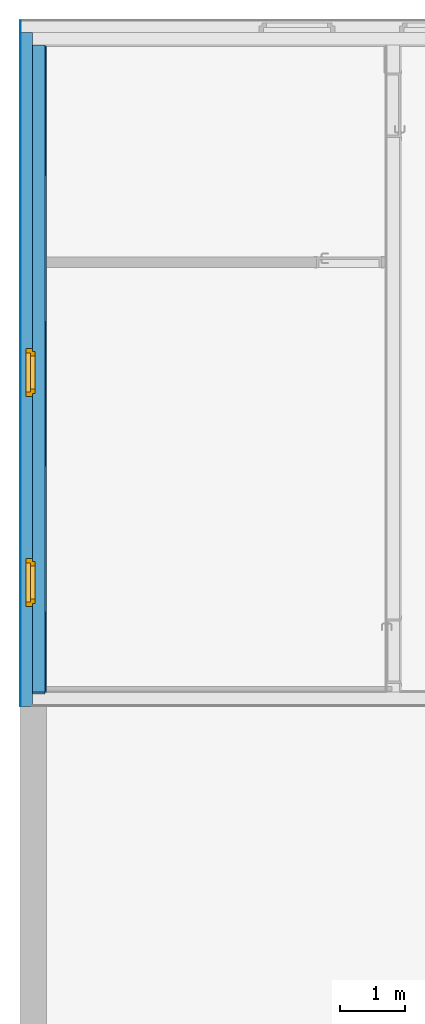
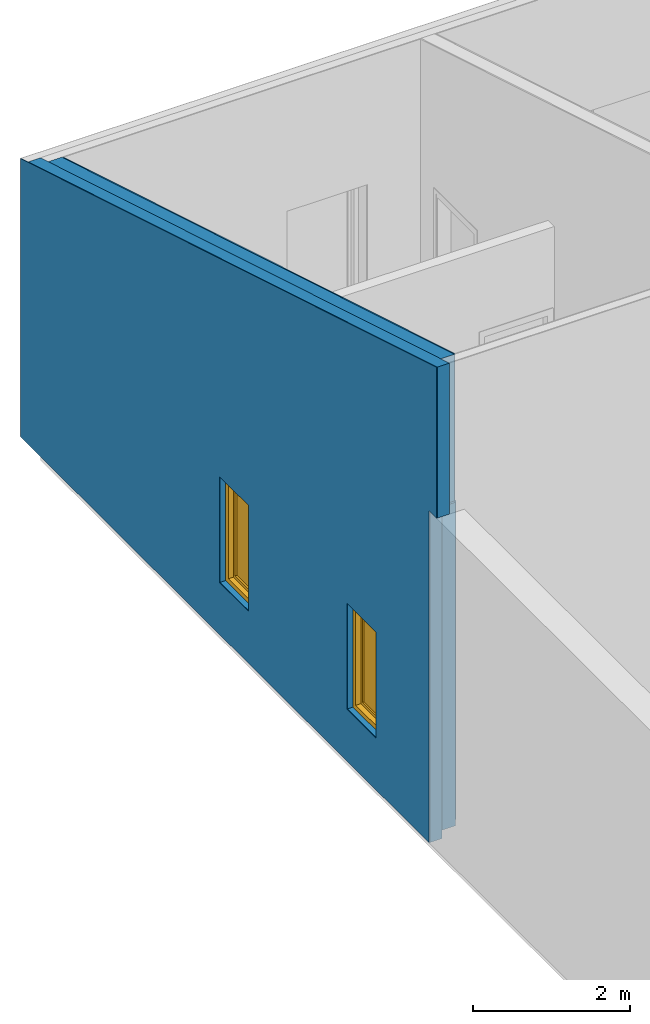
# One storey, part 16 of 34: 4 building element parts, 2 windows, 2 openings, 1 element without a shape of its own.
"""IFC2X3 building model written with IfcOpenShell, lengths in metres."""

from ifc_helpers import new_model, entity, si_unit, converted_unit, derived_unit, money_unit, direction, frame, origin_with_axes, origin_2d_with_axis, place, context, subcontext, project, spatial, polyline, rectangle, outline, extrude, boolean, open_shell, faceted_brep, surface_model, source, transform, mapped, material, type_object, element, fill, aggregate, save


model = new_model("IFC2X3")

# Units and contexts
model_context = context("Model", 3, precision=1e-05, world=origin_with_axes(), true_north=direction((0.0, 1.0)))
body_context = subcontext(model_context, "Body", "Model", "MODEL_VIEW")
ifc_project = project(units=[si_unit("LENGTHUNIT", "METRE"), si_unit("AREAUNIT", "SQUARE_METRE"), si_unit("VOLUMEUNIT", "CUBIC_METRE"), converted_unit("PLANEANGLEUNIT", "DEGREE", entity("IfcPlaneAngleMeasure", 0.0174532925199), si_unit("PLANEANGLEUNIT", "RADIAN"), dimensions=[0, 0, 0, 0, 0, 0, 0]), money_unit("CHF"), converted_unit("TIMEUNIT", "Year", entity("IfcTimeMeasure", 31556926.0), si_unit("TIMEUNIT", "SECOND"), dimensions=[0, 0, 1, 0, 0, 0, 0]), si_unit("MASSUNIT", "GRAM", prefix="KILO"), si_unit("THERMODYNAMICTEMPERATUREUNIT", "DEGREE_CELSIUS"), si_unit("LUMINOUSINTENSITYUNIT", "LUMEN"), si_unit("ENERGYUNIT", "JOULE", prefix="MEGA"), derived_unit("THERMALCONDUCTANCEUNIT", [(si_unit("POWERUNIT", "WATT"), 1), (si_unit("LENGTHUNIT", "METRE"), -1), (si_unit("THERMODYNAMICTEMPERATUREUNIT", "KELVIN"), -1)]), derived_unit("SPECIFICHEATCAPACITYUNIT", [(si_unit("ENERGYUNIT", "JOULE"), 1), (si_unit("MASSUNIT", "GRAM", prefix="KILO"), -1), (si_unit("THERMODYNAMICTEMPERATUREUNIT", "KELVIN"), -1)]), derived_unit("MASSDENSITYUNIT", [(si_unit("MASSUNIT", "GRAM", prefix="KILO"), 1), (si_unit("VOLUMEUNIT", "CUBIC_METRE"), -1)])], contexts=[model_context])

# Site, building, storey
site_placement = place(None, origin_with_axes())
site = spatial("IfcSite", under=ifc_project, at=site_placement, Name="Site", CompositionType="ELEMENT")
building_placement = place(site_placement, origin_with_axes())
building = spatial("IfcBuilding", under=site, at=building_placement, Name="Bâtiment", CompositionType="ELEMENT")
storey_placement = place(building_placement, origin_with_axes())
storey = spatial("IfcBuildingStorey", under=building, at=storey_placement, Name="Rez-de-chaussée", CompositionType="ELEMENT", Elevation=0.0)

# Window
window_style = type_object("IfcWindowStyle", Name="Fenêtre 26", ConstructionType="NOTDEFINED", OperationType="SINGLE_PANEL", ParameterTakesPrecedence=False, Sizeable=False)
shared_shape = source(origin_with_axes(), body_context, "Body", "SurfaceModel", [
    faceted_brep([(0.325, 0.0, 1.58), (0.325, -0.025, 1.58), (0.3, -0.025, 1.58), (0.3, -0.1, 1.58), (0.37, -0.1, 1.58), (0.37, 0.0, 1.58), (0.325, 0.0, 0.07), (0.325, -0.025, 0.07), (0.3, -0.025, 0.07), (0.3, -0.1, 0.07), (0.37, -0.1, 0.07), (0.37, 0.0, 0.07)], [[[0, 1, 2, 3, 4, 5]], [[1, 0, 6, 7]], [[8, 2, 1, 7]], [[2, 8, 9, 3]], [[4, 3, 9, 10]], [[5, 4, 10, 11]], [[6, 0, 5, 11]], [[7, 6, 11, 10, 9, 8]]]),
    faceted_brep([(-0.3, -0.025, 1.58), (-0.325, -0.025, 1.58), (-0.325, 0.0, 1.58), (-0.37, 0.0, 1.58), (-0.37, -0.1, 1.58), (-0.3, -0.1, 1.58), (-0.3, -0.025, 0.07), (-0.325, -0.025, 0.07), (-0.325, 0.0, 0.07), (-0.37, 0.0, 0.07), (-0.37, -0.1, 0.07), (-0.3, -0.1, 0.07)], [[[0, 1, 2, 3, 4, 5]], [[1, 0, 6, 7]], [[8, 2, 1, 7]], [[2, 8, 9, 3]], [[9, 10, 4, 3]], [[10, 11, 5, 4]], [[6, 0, 5, 11]], [[7, 6, 11, 10, 9, 8]]]),
    faceted_brep([(-0.3, -0.025, 0.07), (-0.325, -0.025, 0.07), (-0.325, 0.0, 0.07), (-0.37, 0.0, 0.07), (-0.37, -0.1, 0.07), (-0.3, -0.1, 0.07), (0.3, -0.025, 0.07), (0.325, -0.025, 0.07), (0.325, -0.025, 0.045), (-0.325, -0.025, 0.045), (-0.325, 0.0, 0.045), (0.325, 0.0, 0.045), (0.325, 0.0, 0.07), (0.37, 0.0, 0.07), (0.37, 0.0, 0.0), (-0.37, 0.0, 0.0), (-0.37, -0.1, 0.0), (0.37, -0.1, 0.07), (0.3, -0.1, 0.07), (0.37, -0.1, 0.0)], [[[0, 1, 2, 3, 4, 5]], [[1, 0, 6, 7, 8, 9]], [[10, 2, 1, 9]], [[11, 12, 13, 14, 15, 3, 2, 10]], [[15, 16, 4, 3]], [[17, 18, 5, 4, 16, 19]], [[6, 0, 5, 18]], [[7, 6, 18, 17, 13, 12]], [[7, 12, 11, 8]], [[11, 10, 9, 8]], [[13, 17, 19, 14]], [[14, 19, 16, 15]]]),
    faceted_brep([(0.325, 0.0, 1.58), (0.325, 0.0, 1.605), (-0.325, 0.0, 1.605), (-0.325, 0.0, 1.58), (-0.37, 0.0, 1.58), (-0.37, 0.0, 1.65), (0.37, 0.0, 1.65), (0.37, 0.0, 1.58), (0.325, -0.025, 1.58), (0.325, -0.025, 1.605), (-0.325, -0.025, 1.605), (-0.325, -0.025, 1.58), (-0.3, -0.025, 1.58), (-0.3, -0.1, 1.58), (-0.37, -0.1, 1.58), (-0.37, -0.1, 1.65), (0.37, -0.1, 1.65), (0.37, -0.1, 1.58), (0.3, -0.1, 1.58), (0.3, -0.025, 1.58)], [[[0, 1, 2, 3, 4, 5, 6, 7]], [[1, 0, 8, 9]], [[2, 1, 9, 10]], [[3, 2, 10, 11]], [[11, 12, 13, 14, 4, 3]], [[4, 14, 15, 5]], [[5, 15, 16, 6]], [[6, 16, 17, 7]], [[8, 0, 7, 17, 18, 19]], [[12, 11, 10, 9, 8, 19]], [[12, 19, 18, 13]], [[14, 13, 18, 17, 16, 15]]]),
    faceted_brep([(0.255, -0.025, 1.535), (0.325, -0.025, 1.535), (0.325, 0.045, 1.535), (0.255, 0.045, 1.535), (0.255, -0.025, 0.115), (0.325, -0.025, 0.115), (0.325, 0.045, 0.115), (0.255, 0.045, 0.115)], [[[0, 1, 2, 3]], [[0, 4, 5, 1]], [[1, 5, 6, 2]], [[3, 2, 6, 7]], [[4, 0, 3, 7]], [[5, 4, 7, 6]]]),
    faceted_brep([(-0.255, -0.025, 0.115), (-0.325, -0.025, 0.115), (-0.325, 0.045, 0.115), (-0.255, 0.045, 0.115), (-0.255, -0.025, 1.535), (-0.325, -0.025, 1.535), (-0.325, 0.045, 1.535), (-0.255, 0.045, 1.535)], [[[0, 1, 2, 3]], [[0, 4, 5, 1]], [[1, 5, 6, 2]], [[3, 2, 6, 7]], [[4, 0, 3, 7]], [[5, 4, 7, 6]]]),
    faceted_brep([(-0.325, -0.025, 0.045), (-0.325, -0.025, 0.115), (-0.325, 0.045, 0.115), (-0.325, 0.045, 0.045), (0.325, -0.025, 0.045), (0.325, -0.025, 0.115), (0.255, -0.025, 0.115), (-0.255, -0.025, 0.115), (-0.255, 0.045, 0.115), (0.255, 0.045, 0.115), (0.325, 0.045, 0.115), (0.325, 0.045, 0.045)], [[[0, 1, 2, 3]], [[0, 4, 5, 6, 7, 1]], [[1, 7, 8, 2]], [[3, 2, 8, 9, 10, 11]], [[4, 0, 3, 11]], [[5, 4, 11, 10]], [[6, 5, 10, 9]], [[7, 6, 9, 8]]]),
    faceted_brep([(0.325, -0.025, 1.605), (0.325, -0.025, 1.535), (0.325, 0.045, 1.535), (0.325, 0.045, 1.605), (-0.325, -0.025, 1.605), (-0.325, -0.025, 1.535), (-0.255, -0.025, 1.535), (0.255, -0.025, 1.535), (0.255, 0.045, 1.535), (-0.255, 0.045, 1.535), (-0.325, 0.045, 1.535), (-0.325, 0.045, 1.605)], [[[0, 1, 2, 3]], [[0, 4, 5, 6, 7, 1]], [[1, 7, 8, 2]], [[3, 2, 8, 9, 10, 11]], [[4, 0, 3, 11]], [[5, 4, 11, 10]], [[6, 5, 10, 9]], [[7, 6, 9, 8]]]),
    surface_model("IfcShellBasedSurfaceModel", [(0.255, 0.0, 0.115), (0.255, 0.0, 1.535), (-0.255, 0.0, 1.535), (-0.255, 0.0, 0.115)], [open_shell([[[0, 1, 2, 3]]])]),
    surface_model("IfcShellBasedSurfaceModel", [(0.255, 0.02, 0.115), (-0.255, 0.02, 0.115), (-0.255, 0.02, 1.535), (0.255, 0.02, 1.535)], [open_shell([[[0, 1, 2, 3]]])]),
])
wall_placement = place(storey_placement, frame((11.1494697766, 15.07, -0.21), z_axis=(0.0, 0.0, 1.0), x_axis=(0.0, 1.0, 0.0)))
opening_1_placement = place(wall_placement, frame((1.73016550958, 0.0, 0.81), z_axis=(0.0, 0.0, 1.0), x_axis=(1.0, 0.0, 0.0)))
window_1_placement = place(opening_1_placement, frame((0.37, 0.0, 0.0), z_axis=(0.0, 0.0, 1.0), x_axis=(-1.0, 0.0, 0.0)))
window_1 = element("IfcWindow", 1, at=window_1_placement, inside=storey, type_object=window_style, Name="FENETRE-005", ObjectType="WINDOW", OverallHeight=1.65, OverallWidth=0.74, context=body_context, shape_type="MappedRepresentation", body=[
    mapped(shared_shape, transform((0.37, -0.1, 0.0))),
])

opening_2_placement = place(wall_placement, frame((4.98016550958, 0.0, 0.81), z_axis=(0.0, 0.0, 1.0), x_axis=(1.0, 0.0, 0.0)))
window_2_placement = place(opening_2_placement, frame((0.37, 0.0, 0.0), z_axis=(0.0, 0.0, 1.0), x_axis=(-1.0, 0.0, 0.0)))
window_2 = element("IfcWindow", 2, at=window_2_placement, inside=storey, type_object=window_style, Name="FENETRE-005", ObjectType="WINDOW", OverallHeight=1.65, OverallWidth=0.74, context=body_context, shape_type="MappedRepresentation", body=[
    mapped(shared_shape, transform((0.37, -0.1, 0.0))),
])

# Wall, opening
wall_type = type_object("IfcWallType", Name="Mur 20cm + iso 18 + enduit  410", PredefinedType="NOTDEFINED")
wall = element("IfcWall", 3, at=wall_placement, inside=storey, type_object=wall_type, Name="Mur ext 20+18isolant")
opening_1 = element("IfcOpeningElement", 4, at=opening_1_placement, cuts=wall, Name="FENETRE-005", context=body_context, shape_type="SweptSolid", body=[
    extrude(rectangle(XDim=0.74, YDim=1.65, at=origin_2d_with_axis()), frame((0.0, 0.2, 0.825), z_axis=(0.0, -1.0, 0.0), x_axis=(1.0, 0.0, 0.0)), (0.0, 0.0, 1.0), 0.73),
    extrude(rectangle(XDim=0.74, YDim=1.65, at=origin_2d_with_axis()), frame((0.0, 0.2, 0.825), z_axis=(0.0, 1.0, 0.0), x_axis=(1.0, 0.0, 0.0)), (0.0, 0.0, 1.0), 0.5),
])

fill(opening_1, window_1)

# Opening
opening_2 = element("IfcOpeningElement", 5, at=opening_2_placement, cuts=wall, Name="FENETRE-005", context=body_context, shape_type="SweptSolid", body=[
    extrude(rectangle(XDim=0.74, YDim=1.65, at=origin_2d_with_axis()), frame((0.0, 0.2, 0.825), z_axis=(0.0, -1.0, 0.0), x_axis=(1.0, 0.0, 0.0)), (0.0, 0.0, 1.0), 0.73),
    extrude(rectangle(XDim=0.74, YDim=1.65, at=origin_2d_with_axis()), frame((0.0, 0.2, 0.825), z_axis=(0.0, 1.0, 0.0), x_axis=(1.0, 0.0, 0.0)), (0.0, 0.0, 1.0), 0.5),
])

fill(opening_2, window_2)

# Building element part
ifc_material_1 = material(Name="Finition int - Enduit plâtre")
building_element_part_1_placement = place(wall_placement, origin_with_axes())
building_element_part_1 = element("IfcBuildingElementPart", 6, at=building_element_part_1_placement, material=ifc_material_1, Name="Finition int - Enduit plâtre", context=body_context, shape_type="CSG", body=[
    boolean("DIFFERENCE", boolean("DIFFERENCE", boolean("DIFFERENCE", boolean("DIFFERENCE", boolean("DIFFERENCE", boolean("DIFFERENCE", boolean("DIFFERENCE", extrude(outline(polyline([(-0.19, -0.12), (10.4401256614, -0.12), (10.4401256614, -0.1), (-0.19, -0.1), (-0.19, -0.12)])), origin_with_axes(), (0.0, 0.0, 1.0), 7.64), faceted_brep([(0.05, -0.1, 0.21), (0.05, -0.1, 2.81), (0.12, -0.1, 2.81), (0.12, -0.1, 0.21), (0.05, -0.12, 0.21), (0.05, -0.12, 2.81), (0.12, -0.12, 2.81), (0.12, -0.12, 0.21)], [[[0, 1, 2, 3]], [[4, 5, 1, 0]], [[5, 6, 2, 1]], [[6, 7, 3, 2]], [[7, 4, 0, 3]], [[4, 7, 6, 5]]])), faceted_brep([(10.4401256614, -0.1, 7.64), (10.4401256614, -0.1, 0.0), (-0.19, -0.1, 0.0), (-0.19, -0.1, 7.64), (6.7685, -0.1, 0.2), (10.0301256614, -0.1, 0.2), (10.0301256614, -0.1, 4.45417566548), (0.05, -0.1, 7.44821336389), (0.05, -0.1, 5.17), (0.03, -0.1, 5.17), (0.03, -0.1, 0.2), (6.61, -0.1, 0.2), (6.61, -0.1, 3.61), (6.7685, -0.1, 3.61), (10.4401256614, -0.12, 7.64), (10.4401256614, -0.12, 0.0), (-0.19, -0.12, 0.0), (-0.19, -0.12, 7.64), (6.7685, -0.12, 0.2), (10.0301256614, -0.12, 0.2), (10.0301256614, -0.12, 4.45417566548), (0.05, -0.12, 7.44821336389), (0.05, -0.12, 5.17), (0.03, -0.12, 5.17), (0.03, -0.12, 0.2), (6.61, -0.12, 0.2), (6.61, -0.12, 3.61), (6.7685, -0.12, 3.61)], [[[0, 1, 2, 3], [4, 5, 6, 7, 8, 9, 10, 11, 12, 13]], [[14, 15, 1, 0]], [[15, 16, 2, 1]], [[3, 2, 16, 17]], [[3, 17, 14, 0]], [[18, 19, 5, 4]], [[19, 20, 6, 5]], [[20, 21, 7, 6]], [[21, 22, 8, 7]], [[22, 23, 9, 8]], [[23, 24, 10, 9]], [[24, 25, 11, 10]], [[25, 26, 12, 11]], [[26, 27, 13, 12]], [[27, 18, 4, 13]], [[17, 16, 15, 14], [22, 21, 20, 19, 18, 27, 26, 25, 24, 23]]])), faceted_brep([(10.4401256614, 0.1, 7.64), (10.4401256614, 0.1, 0.0), (-0.19, 0.1, 0.0), (-0.19, 0.1, 7.64), (0.0, 0.1, 0.13), (10.0501256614, 0.1, 0.13), (10.0501256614, 0.1, 4.44817566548), (0.03, 0.1, 7.45421336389), (0.03, 0.1, 5.17), (0.0, 0.1, 5.17), (10.4401256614, -0.1, 7.64), (10.4401256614, -0.1, 0.0), (-0.19, -0.1, 0.0), (-0.19, -0.1, 7.64), (0.0, -0.1, 0.13), (10.0501256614, -0.1, 0.13), (10.0501256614, -0.1, 4.44817566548), (10.0301256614, -0.1, 4.45417566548), (0.05, -0.1, 7.44821336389), (0.03, -0.1, 7.45421336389), (0.03, -0.1, 5.17), (0.0, -0.1, 5.17)], [[[0, 1, 2, 3], [4, 5, 6, 7, 8, 9]], [[10, 11, 1, 0]], [[11, 12, 2, 1]], [[3, 2, 12, 13]], [[3, 13, 10, 0]], [[14, 15, 5, 4]], [[15, 16, 6, 5]], [[16, 17, 18, 19, 7, 6]], [[19, 20, 8, 7]], [[20, 21, 9, 8]], [[21, 14, 4, 9]], [[13, 12, 11, 10], [18, 17, 16, 15, 14, 21, 20, 19]]])), faceted_brep([(0.0, 0.1, 0.0), (0.0, 0.1, 0.13), (0.0, 0.1, 5.17), (-0.189999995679, 0.1, 5.17), (-0.19, 0.1, 0.0), (0.0, 0.28, 0.0), (0.0, 0.28, 5.17), (-0.189999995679, 0.28, 5.17), (-0.19, 0.28, 0.0)], [[[0, 1, 2, 3, 4]], [[2, 1, 0, 5, 6]], [[3, 2, 6, 7]], [[3, 7, 8, 4]], [[5, 0, 4, 8]], [[6, 5, 8, 7]]])), faceted_brep([(0.03, 0.1, 7.45421336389), (10.0501256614, 0.1, 4.44817566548), (10.2501256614, 0.1, 4.38817566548), (10.2501256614, 0.1, 0.0), (10.4401256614, 0.1, 0.0), (10.4401256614, 0.1, 7.64), (-0.19, 0.1, 7.64), (-0.189999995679, 0.1, 7.52021336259), (-0.189999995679, 0.28, 7.52021336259), (10.2501256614, 0.28, 4.38817566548), (10.2501256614, 0.28, 0.0), (10.4401256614, 0.28, 0.0), (10.4401256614, 0.28, 7.64), (-0.19, 0.28, 7.64)], [[[0, 1, 2, 3, 4, 5, 6, 7]], [[2, 1, 0, 7, 8, 9]], [[3, 2, 9, 10]], [[3, 10, 11, 4]], [[5, 4, 11, 12]], [[13, 6, 5, 12]], [[8, 7, 6, 13]], [[9, 8, 13, 12, 11, 10]]])), faceted_brep([(0.0, 0.28, 5.17), (-0.189999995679, 0.28, 5.17), (-0.19, 0.28, 0.0), (0.0, 0.28, 0.0), (0.0, 0.29000002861, 5.17), (-0.189999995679, 0.29000002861, 5.17), (-0.19, 0.29, 0.0), (0.0, 0.29, 0.0)], [[[0, 1, 2, 3]], [[1, 0, 4, 5]], [[1, 5, 6, 2]], [[7, 3, 2, 6]], [[0, 3, 7, 4]], [[4, 7, 6, 5]]])), faceted_brep([(-0.189999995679, 0.28, 7.52021336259), (10.2501256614, 0.28, 4.38817566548), (10.4301256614, 0.28, 4.33417566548), (10.4301256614, 0.28, 0.0), (10.4401256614, 0.28, 0.0), (10.4401256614, 0.28, 7.64), (-0.19, 0.28, 7.64), (-0.189999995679, 0.29000000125, 7.52021336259), (10.4301256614, 0.290000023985, 4.33417566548), (10.4301256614, 0.29, 0.0), (10.4401256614, 0.29, 0.0), (10.4401256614, 0.29, 7.64), (-0.19, 0.29, 7.64)], [[[0, 1, 2, 3, 4, 5, 6]], [[2, 1, 0, 7, 8]], [[3, 2, 8, 9]], [[3, 9, 10, 4]], [[5, 4, 10, 11]], [[12, 6, 5, 11]], [[7, 0, 6, 12]], [[8, 7, 12, 11, 10, 9]]])),
])

ifc_material_2 = material(Name="Béton armé (Coulé)")
building_element_part_2_placement = place(wall_placement, origin_with_axes())
building_element_part_2 = element("IfcBuildingElementPart", 7, at=building_element_part_2_placement, material=ifc_material_2, Name="Béton armé (Coulé)", context=body_context, shape_type="CSG", body=[
    boolean("DIFFERENCE", boolean("DIFFERENCE", boolean("DIFFERENCE", boolean("DIFFERENCE", boolean("DIFFERENCE", boolean("DIFFERENCE", boolean("DIFFERENCE", extrude(outline(polyline([(-0.19, -0.1), (10.4401256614, -0.1), (10.4401256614, 0.1), (-0.19, 0.1), (-0.19, -0.1)])), origin_with_axes(), (0.0, 0.0, 1.0), 7.64), faceted_brep([(0.05, -0.1, 0.21), (0.05, -0.1, 2.81), (0.12, -0.1, 2.81), (0.12, -0.1, 0.21), (0.05, -0.12, 0.21), (0.05, -0.12, 2.81), (0.12, -0.12, 2.81), (0.12, -0.12, 0.21)], [[[0, 1, 2, 3]], [[4, 5, 1, 0]], [[5, 6, 2, 1]], [[6, 7, 3, 2]], [[7, 4, 0, 3]], [[4, 7, 6, 5]]])), faceted_brep([(10.4401256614, -0.1, 7.64), (10.4401256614, -0.1, 0.0), (-0.19, -0.1, 0.0), (-0.19, -0.1, 7.64), (6.7685, -0.1, 0.2), (10.0301256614, -0.1, 0.2), (10.0301256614, -0.1, 4.45417566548), (0.05, -0.1, 7.44821336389), (0.05, -0.1, 5.17), (0.03, -0.1, 5.17), (0.03, -0.1, 0.2), (6.61, -0.1, 0.2), (6.61, -0.1, 3.61), (6.7685, -0.1, 3.61), (10.4401256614, -0.12, 7.64), (10.4401256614, -0.12, 0.0), (-0.19, -0.12, 0.0), (-0.19, -0.12, 7.64), (6.7685, -0.12, 0.2), (10.0301256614, -0.12, 0.2), (10.0301256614, -0.12, 4.45417566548), (0.05, -0.12, 7.44821336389), (0.05, -0.12, 5.17), (0.03, -0.12, 5.17), (0.03, -0.12, 0.2), (6.61, -0.12, 0.2), (6.61, -0.12, 3.61), (6.7685, -0.12, 3.61)], [[[0, 1, 2, 3], [4, 5, 6, 7, 8, 9, 10, 11, 12, 13]], [[14, 15, 1, 0]], [[15, 16, 2, 1]], [[3, 2, 16, 17]], [[3, 17, 14, 0]], [[18, 19, 5, 4]], [[19, 20, 6, 5]], [[20, 21, 7, 6]], [[21, 22, 8, 7]], [[22, 23, 9, 8]], [[23, 24, 10, 9]], [[24, 25, 11, 10]], [[25, 26, 12, 11]], [[26, 27, 13, 12]], [[27, 18, 4, 13]], [[17, 16, 15, 14], [22, 21, 20, 19, 18, 27, 26, 25, 24, 23]]])), faceted_brep([(10.4401256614, 0.1, 7.64), (10.4401256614, 0.1, 0.0), (-0.19, 0.1, 0.0), (-0.19, 0.1, 7.64), (0.0, 0.1, 0.13), (10.0501256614, 0.1, 0.13), (10.0501256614, 0.1, 4.44817566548), (0.03, 0.1, 7.45421336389), (0.03, 0.1, 5.17), (0.0, 0.1, 5.17), (10.4401256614, -0.1, 7.64), (10.4401256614, -0.1, 0.0), (-0.19, -0.1, 0.0), (-0.19, -0.1, 7.64), (0.0, -0.1, 0.13), (10.0501256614, -0.1, 0.13), (10.0501256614, -0.1, 4.44817566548), (10.0301256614, -0.1, 4.45417566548), (0.05, -0.1, 7.44821336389), (0.03, -0.1, 7.45421336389), (0.03, -0.1, 5.17), (0.0, -0.1, 5.17)], [[[0, 1, 2, 3], [4, 5, 6, 7, 8, 9]], [[10, 11, 1, 0]], [[11, 12, 2, 1]], [[3, 2, 12, 13]], [[3, 13, 10, 0]], [[14, 15, 5, 4]], [[15, 16, 6, 5]], [[16, 17, 18, 19, 7, 6]], [[19, 20, 8, 7]], [[20, 21, 9, 8]], [[21, 14, 4, 9]], [[13, 12, 11, 10], [18, 17, 16, 15, 14, 21, 20, 19]]])), faceted_brep([(0.0, 0.1, 0.0), (0.0, 0.1, 0.13), (0.0, 0.1, 5.17), (-0.189999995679, 0.1, 5.17), (-0.19, 0.1, 0.0), (0.0, 0.28, 0.0), (0.0, 0.28, 5.17), (-0.189999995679, 0.28, 5.17), (-0.19, 0.28, 0.0)], [[[0, 1, 2, 3, 4]], [[2, 1, 0, 5, 6]], [[3, 2, 6, 7]], [[3, 7, 8, 4]], [[5, 0, 4, 8]], [[6, 5, 8, 7]]])), faceted_brep([(0.03, 0.1, 7.45421336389), (10.0501256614, 0.1, 4.44817566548), (10.2501256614, 0.1, 4.38817566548), (10.2501256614, 0.1, 0.0), (10.4401256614, 0.1, 0.0), (10.4401256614, 0.1, 7.64), (-0.19, 0.1, 7.64), (-0.189999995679, 0.1, 7.52021336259), (-0.189999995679, 0.28, 7.52021336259), (10.2501256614, 0.28, 4.38817566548), (10.2501256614, 0.28, 0.0), (10.4401256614, 0.28, 0.0), (10.4401256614, 0.28, 7.64), (-0.19, 0.28, 7.64)], [[[0, 1, 2, 3, 4, 5, 6, 7]], [[2, 1, 0, 7, 8, 9]], [[3, 2, 9, 10]], [[3, 10, 11, 4]], [[5, 4, 11, 12]], [[13, 6, 5, 12]], [[8, 7, 6, 13]], [[9, 8, 13, 12, 11, 10]]])), faceted_brep([(0.0, 0.28, 5.17), (-0.189999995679, 0.28, 5.17), (-0.19, 0.28, 0.0), (0.0, 0.28, 0.0), (0.0, 0.29000002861, 5.17), (-0.189999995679, 0.29000002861, 5.17), (-0.19, 0.29, 0.0), (0.0, 0.29, 0.0)], [[[0, 1, 2, 3]], [[1, 0, 4, 5]], [[1, 5, 6, 2]], [[7, 3, 2, 6]], [[0, 3, 7, 4]], [[4, 7, 6, 5]]])), faceted_brep([(-0.189999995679, 0.28, 7.52021336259), (10.2501256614, 0.28, 4.38817566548), (10.4301256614, 0.28, 4.33417566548), (10.4301256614, 0.28, 0.0), (10.4401256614, 0.28, 0.0), (10.4401256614, 0.28, 7.64), (-0.19, 0.28, 7.64), (-0.189999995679, 0.29000000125, 7.52021336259), (10.4301256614, 0.290000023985, 4.33417566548), (10.4301256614, 0.29, 0.0), (10.4401256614, 0.29, 0.0), (10.4401256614, 0.29, 7.64), (-0.19, 0.29, 7.64)], [[[0, 1, 2, 3, 4, 5, 6]], [[2, 1, 0, 7, 8]], [[3, 2, 8, 9]], [[3, 9, 10, 4]], [[5, 4, 10, 11]], [[12, 6, 5, 11]], [[7, 0, 6, 12]], [[8, 7, 12, 11, 10, 9]]])),
])

ifc_material_3 = material(Name="Isolation - Fibres de bois")
building_element_part_3_placement = place(wall_placement, origin_with_axes())
building_element_part_3 = element("IfcBuildingElementPart", 8, at=building_element_part_3_placement, material=ifc_material_3, Name="Isolation - Fibres de bois", context=body_context, shape_type="CSG", body=[
    boolean("DIFFERENCE", boolean("DIFFERENCE", boolean("DIFFERENCE", boolean("DIFFERENCE", boolean("DIFFERENCE", boolean("DIFFERENCE", boolean("DIFFERENCE", extrude(outline(polyline([(-0.19, 0.1), (10.4401256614, 0.1), (10.4401256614, 0.28), (-0.19, 0.28), (-0.19, 0.1)])), origin_with_axes(), (0.0, 0.0, 1.0), 7.64), faceted_brep([(0.05, -0.1, 0.21), (0.05, -0.1, 2.81), (0.12, -0.1, 2.81), (0.12, -0.1, 0.21), (0.05, -0.12, 0.21), (0.05, -0.12, 2.81), (0.12, -0.12, 2.81), (0.12, -0.12, 0.21)], [[[0, 1, 2, 3]], [[4, 5, 1, 0]], [[5, 6, 2, 1]], [[6, 7, 3, 2]], [[7, 4, 0, 3]], [[4, 7, 6, 5]]])), faceted_brep([(10.4401256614, -0.1, 7.64), (10.4401256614, -0.1, 0.0), (-0.19, -0.1, 0.0), (-0.19, -0.1, 7.64), (6.7685, -0.1, 0.2), (10.0301256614, -0.1, 0.2), (10.0301256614, -0.1, 4.45417566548), (0.05, -0.1, 7.44821336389), (0.05, -0.1, 5.17), (0.03, -0.1, 5.17), (0.03, -0.1, 0.2), (6.61, -0.1, 0.2), (6.61, -0.1, 3.61), (6.7685, -0.1, 3.61), (10.4401256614, -0.12, 7.64), (10.4401256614, -0.12, 0.0), (-0.19, -0.12, 0.0), (-0.19, -0.12, 7.64), (6.7685, -0.12, 0.2), (10.0301256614, -0.12, 0.2), (10.0301256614, -0.12, 4.45417566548), (0.05, -0.12, 7.44821336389), (0.05, -0.12, 5.17), (0.03, -0.12, 5.17), (0.03, -0.12, 0.2), (6.61, -0.12, 0.2), (6.61, -0.12, 3.61), (6.7685, -0.12, 3.61)], [[[0, 1, 2, 3], [4, 5, 6, 7, 8, 9, 10, 11, 12, 13]], [[14, 15, 1, 0]], [[15, 16, 2, 1]], [[3, 2, 16, 17]], [[3, 17, 14, 0]], [[18, 19, 5, 4]], [[19, 20, 6, 5]], [[20, 21, 7, 6]], [[21, 22, 8, 7]], [[22, 23, 9, 8]], [[23, 24, 10, 9]], [[24, 25, 11, 10]], [[25, 26, 12, 11]], [[26, 27, 13, 12]], [[27, 18, 4, 13]], [[17, 16, 15, 14], [22, 21, 20, 19, 18, 27, 26, 25, 24, 23]]])), faceted_brep([(10.4401256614, 0.1, 7.64), (10.4401256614, 0.1, 0.0), (-0.19, 0.1, 0.0), (-0.19, 0.1, 7.64), (0.0, 0.1, 0.13), (10.0501256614, 0.1, 0.13), (10.0501256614, 0.1, 4.44817566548), (0.03, 0.1, 7.45421336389), (0.03, 0.1, 5.17), (0.0, 0.1, 5.17), (10.4401256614, -0.1, 7.64), (10.4401256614, -0.1, 0.0), (-0.19, -0.1, 0.0), (-0.19, -0.1, 7.64), (0.0, -0.1, 0.13), (10.0501256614, -0.1, 0.13), (10.0501256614, -0.1, 4.44817566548), (10.0301256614, -0.1, 4.45417566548), (0.05, -0.1, 7.44821336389), (0.03, -0.1, 7.45421336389), (0.03, -0.1, 5.17), (0.0, -0.1, 5.17)], [[[0, 1, 2, 3], [4, 5, 6, 7, 8, 9]], [[10, 11, 1, 0]], [[11, 12, 2, 1]], [[3, 2, 12, 13]], [[3, 13, 10, 0]], [[14, 15, 5, 4]], [[15, 16, 6, 5]], [[16, 17, 18, 19, 7, 6]], [[19, 20, 8, 7]], [[20, 21, 9, 8]], [[21, 14, 4, 9]], [[13, 12, 11, 10], [18, 17, 16, 15, 14, 21, 20, 19]]])), faceted_brep([(0.0, 0.1, 0.0), (0.0, 0.1, 0.13), (0.0, 0.1, 5.17), (-0.189999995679, 0.1, 5.17), (-0.19, 0.1, 0.0), (0.0, 0.28, 0.0), (0.0, 0.28, 5.17), (-0.189999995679, 0.28, 5.17), (-0.19, 0.28, 0.0)], [[[0, 1, 2, 3, 4]], [[2, 1, 0, 5, 6]], [[3, 2, 6, 7]], [[3, 7, 8, 4]], [[5, 0, 4, 8]], [[6, 5, 8, 7]]])), faceted_brep([(0.03, 0.1, 7.45421336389), (10.0501256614, 0.1, 4.44817566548), (10.2501256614, 0.1, 4.38817566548), (10.2501256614, 0.1, 0.0), (10.4401256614, 0.1, 0.0), (10.4401256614, 0.1, 7.64), (-0.19, 0.1, 7.64), (-0.189999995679, 0.1, 7.52021336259), (-0.189999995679, 0.28, 7.52021336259), (10.2501256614, 0.28, 4.38817566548), (10.2501256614, 0.28, 0.0), (10.4401256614, 0.28, 0.0), (10.4401256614, 0.28, 7.64), (-0.19, 0.28, 7.64)], [[[0, 1, 2, 3, 4, 5, 6, 7]], [[2, 1, 0, 7, 8, 9]], [[3, 2, 9, 10]], [[3, 10, 11, 4]], [[5, 4, 11, 12]], [[13, 6, 5, 12]], [[8, 7, 6, 13]], [[9, 8, 13, 12, 11, 10]]])), faceted_brep([(0.0, 0.28, 5.17), (-0.189999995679, 0.28, 5.17), (-0.19, 0.28, 0.0), (0.0, 0.28, 0.0), (0.0, 0.29000002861, 5.17), (-0.189999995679, 0.29000002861, 5.17), (-0.19, 0.29, 0.0), (0.0, 0.29, 0.0)], [[[0, 1, 2, 3]], [[1, 0, 4, 5]], [[1, 5, 6, 2]], [[7, 3, 2, 6]], [[0, 3, 7, 4]], [[4, 7, 6, 5]]])), faceted_brep([(-0.189999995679, 0.28, 7.52021336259), (10.2501256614, 0.28, 4.38817566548), (10.4301256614, 0.28, 4.33417566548), (10.4301256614, 0.28, 0.0), (10.4401256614, 0.28, 0.0), (10.4401256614, 0.28, 7.64), (-0.19, 0.28, 7.64), (-0.189999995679, 0.29000000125, 7.52021336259), (10.4301256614, 0.290000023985, 4.33417566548), (10.4301256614, 0.29, 0.0), (10.4401256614, 0.29, 0.0), (10.4401256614, 0.29, 7.64), (-0.19, 0.29, 7.64)], [[[0, 1, 2, 3, 4, 5, 6]], [[2, 1, 0, 7, 8]], [[3, 2, 8, 9]], [[3, 9, 10, 4]], [[5, 4, 10, 11]], [[12, 6, 5, 11]], [[7, 0, 6, 12]], [[8, 7, 12, 11, 10, 9]]])),
])

ifc_material_4 = material(Name="Finition int - Enduit minéral")
building_element_part_4_placement = place(wall_placement, origin_with_axes())
building_element_part_4 = element("IfcBuildingElementPart", 9, at=building_element_part_4_placement, material=ifc_material_4, Name="Finition int - Enduit minéral", context=body_context, shape_type="CSG", body=[
    boolean("DIFFERENCE", boolean("DIFFERENCE", boolean("DIFFERENCE", boolean("DIFFERENCE", boolean("DIFFERENCE", boolean("DIFFERENCE", boolean("DIFFERENCE", extrude(outline(polyline([(-0.19, 0.28), (10.4401256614, 0.28), (10.4401256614, 0.29), (-0.19, 0.29), (-0.19, 0.28)])), origin_with_axes(), (0.0, 0.0, 1.0), 7.64), faceted_brep([(0.05, -0.1, 0.21), (0.05, -0.1, 2.81), (0.12, -0.1, 2.81), (0.12, -0.1, 0.21), (0.05, -0.12, 0.21), (0.05, -0.12, 2.81), (0.12, -0.12, 2.81), (0.12, -0.12, 0.21)], [[[0, 1, 2, 3]], [[4, 5, 1, 0]], [[5, 6, 2, 1]], [[6, 7, 3, 2]], [[7, 4, 0, 3]], [[4, 7, 6, 5]]])), faceted_brep([(10.4401256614, -0.1, 7.64), (10.4401256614, -0.1, 0.0), (-0.19, -0.1, 0.0), (-0.19, -0.1, 7.64), (6.7685, -0.1, 0.2), (10.0301256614, -0.1, 0.2), (10.0301256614, -0.1, 4.45417566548), (0.05, -0.1, 7.44821336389), (0.05, -0.1, 5.17), (0.03, -0.1, 5.17), (0.03, -0.1, 0.2), (6.61, -0.1, 0.2), (6.61, -0.1, 3.61), (6.7685, -0.1, 3.61), (10.4401256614, -0.12, 7.64), (10.4401256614, -0.12, 0.0), (-0.19, -0.12, 0.0), (-0.19, -0.12, 7.64), (6.7685, -0.12, 0.2), (10.0301256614, -0.12, 0.2), (10.0301256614, -0.12, 4.45417566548), (0.05, -0.12, 7.44821336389), (0.05, -0.12, 5.17), (0.03, -0.12, 5.17), (0.03, -0.12, 0.2), (6.61, -0.12, 0.2), (6.61, -0.12, 3.61), (6.7685, -0.12, 3.61)], [[[0, 1, 2, 3], [4, 5, 6, 7, 8, 9, 10, 11, 12, 13]], [[14, 15, 1, 0]], [[15, 16, 2, 1]], [[3, 2, 16, 17]], [[3, 17, 14, 0]], [[18, 19, 5, 4]], [[19, 20, 6, 5]], [[20, 21, 7, 6]], [[21, 22, 8, 7]], [[22, 23, 9, 8]], [[23, 24, 10, 9]], [[24, 25, 11, 10]], [[25, 26, 12, 11]], [[26, 27, 13, 12]], [[27, 18, 4, 13]], [[17, 16, 15, 14], [22, 21, 20, 19, 18, 27, 26, 25, 24, 23]]])), faceted_brep([(10.4401256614, 0.1, 7.64), (10.4401256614, 0.1, 0.0), (-0.19, 0.1, 0.0), (-0.19, 0.1, 7.64), (0.0, 0.1, 0.13), (10.0501256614, 0.1, 0.13), (10.0501256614, 0.1, 4.44817566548), (0.03, 0.1, 7.45421336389), (0.03, 0.1, 5.17), (0.0, 0.1, 5.17), (10.4401256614, -0.1, 7.64), (10.4401256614, -0.1, 0.0), (-0.19, -0.1, 0.0), (-0.19, -0.1, 7.64), (0.0, -0.1, 0.13), (10.0501256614, -0.1, 0.13), (10.0501256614, -0.1, 4.44817566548), (10.0301256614, -0.1, 4.45417566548), (0.05, -0.1, 7.44821336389), (0.03, -0.1, 7.45421336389), (0.03, -0.1, 5.17), (0.0, -0.1, 5.17)], [[[0, 1, 2, 3], [4, 5, 6, 7, 8, 9]], [[10, 11, 1, 0]], [[11, 12, 2, 1]], [[3, 2, 12, 13]], [[3, 13, 10, 0]], [[14, 15, 5, 4]], [[15, 16, 6, 5]], [[16, 17, 18, 19, 7, 6]], [[19, 20, 8, 7]], [[20, 21, 9, 8]], [[21, 14, 4, 9]], [[13, 12, 11, 10], [18, 17, 16, 15, 14, 21, 20, 19]]])), faceted_brep([(0.0, 0.1, 0.0), (0.0, 0.1, 0.13), (0.0, 0.1, 5.17), (-0.189999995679, 0.1, 5.17), (-0.19, 0.1, 0.0), (0.0, 0.28, 0.0), (0.0, 0.28, 5.17), (-0.189999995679, 0.28, 5.17), (-0.19, 0.28, 0.0)], [[[0, 1, 2, 3, 4]], [[2, 1, 0, 5, 6]], [[3, 2, 6, 7]], [[3, 7, 8, 4]], [[5, 0, 4, 8]], [[6, 5, 8, 7]]])), faceted_brep([(0.03, 0.1, 7.45421336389), (10.0501256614, 0.1, 4.44817566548), (10.2501256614, 0.1, 4.38817566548), (10.2501256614, 0.1, 0.0), (10.4401256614, 0.1, 0.0), (10.4401256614, 0.1, 7.64), (-0.19, 0.1, 7.64), (-0.189999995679, 0.1, 7.52021336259), (-0.189999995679, 0.28, 7.52021336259), (10.2501256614, 0.28, 4.38817566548), (10.2501256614, 0.28, 0.0), (10.4401256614, 0.28, 0.0), (10.4401256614, 0.28, 7.64), (-0.19, 0.28, 7.64)], [[[0, 1, 2, 3, 4, 5, 6, 7]], [[2, 1, 0, 7, 8, 9]], [[3, 2, 9, 10]], [[3, 10, 11, 4]], [[5, 4, 11, 12]], [[13, 6, 5, 12]], [[8, 7, 6, 13]], [[9, 8, 13, 12, 11, 10]]])), faceted_brep([(0.0, 0.28, 5.17), (-0.189999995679, 0.28, 5.17), (-0.19, 0.28, 0.0), (0.0, 0.28, 0.0), (0.0, 0.29000002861, 5.17), (-0.189999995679, 0.29000002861, 5.17), (-0.19, 0.29, 0.0), (0.0, 0.29, 0.0)], [[[0, 1, 2, 3]], [[1, 0, 4, 5]], [[1, 5, 6, 2]], [[7, 3, 2, 6]], [[0, 3, 7, 4]], [[4, 7, 6, 5]]])), faceted_brep([(-0.189999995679, 0.28, 7.52021336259), (10.2501256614, 0.28, 4.38817566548), (10.4301256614, 0.28, 4.33417566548), (10.4301256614, 0.28, 0.0), (10.4401256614, 0.28, 0.0), (10.4401256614, 0.28, 7.64), (-0.19, 0.28, 7.64), (-0.189999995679, 0.29000000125, 7.52021336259), (10.4301256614, 0.290000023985, 4.33417566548), (10.4301256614, 0.29, 0.0), (10.4401256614, 0.29, 0.0), (10.4401256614, 0.29, 7.64), (-0.19, 0.29, 7.64)], [[[0, 1, 2, 3, 4, 5, 6]], [[2, 1, 0, 7, 8]], [[3, 2, 8, 9]], [[3, 9, 10, 4]], [[5, 4, 10, 11]], [[12, 6, 5, 11]], [[7, 0, 6, 12]], [[8, 7, 12, 11, 10, 9]]])),
])

aggregate(wall, [building_element_part_1, building_element_part_2, building_element_part_3, building_element_part_4])

save(model, "model.ifc")
